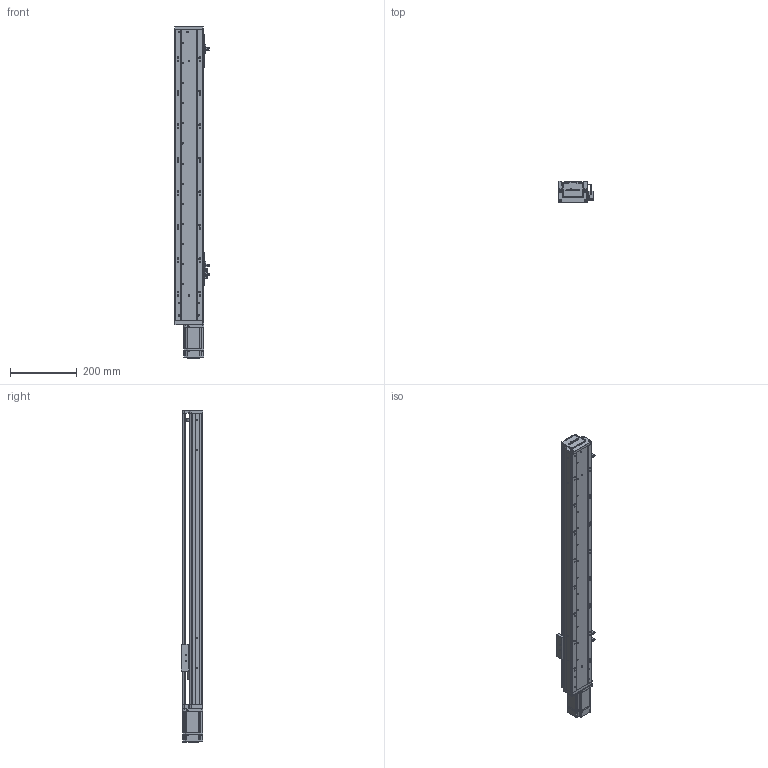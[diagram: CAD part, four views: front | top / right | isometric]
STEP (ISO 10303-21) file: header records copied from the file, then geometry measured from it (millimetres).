
FILE_DESCRIPTION (( 'STEP AP203' ), '1' );
FILE_NAME ('RY80-L1620-300-MK.SLDASM_650.step', '2021-02-20T02:33:29', ( '' ), ( '' ), 'SwSTEP 2.0', 'SolidWorks 2012', '' );
FILE_SCHEMA (( 'CONFIG_CONTROL_DESIGN' ));
Length unit declared in the file: millimetre
Products named in the file (14): RY80-L1620-300-MK.SLDASM_650; RY80綴裔啣; RY80前盖板(100W电机 PCD46 M4); 滅袉蝶18-24; 672嫖萇羲壽假蚾釱; RY80俋离覜茼え; 覜茼ん672; RY80前盖板(200W电机)M4; 1; 侂狟200W萇儂; 滅袉蝶18-10; RY80-300-MK倰第奻裔啣_650; RY80臏賑輸; RY80-300-MK倰第菁釱_650
Assembly tree (16 placements, depth 3):
  RY80-L1620-300-MK.SLDASM_650
    RY80-300-MK倰第菁釱_650
    RY80臏賑輸
    RY80-300-MK倰第奻裔啣_650
    RY80前盖板(200W电机)M4
    侂狟200W萇儂
      1
    滅袉蝶18-10
    672嫖萇羲壽假蚾釱  x2
    覜茼ん672  x3
    RY80俋离覜茼え
    滅袉蝶18-24
    RY80綴裔啣
    RY80前盖板(100W电机 PCD46 M4)
Bounding box: 103.7 x 65 x 992 mm (x, y, z)
Volume: 1697863.1 mm3; surface area: 641122 mm2
Topology: 15 solids, 15 shells, 2094 faces, 5794 edges, 3773 vertices
Faces by surface type: plane 1125, cylinder 785, cone 130, bspline 54
Entity records: 66863 total; most frequent: CARTESIAN_POINT 17247, ORIENTED_EDGE 10328, DIRECTION 9569, EDGE_CURVE 5164, VERTEX_POINT 3389, AXIS2_PLACEMENT_3D 3225, VECTOR 3119, LINE 3119
